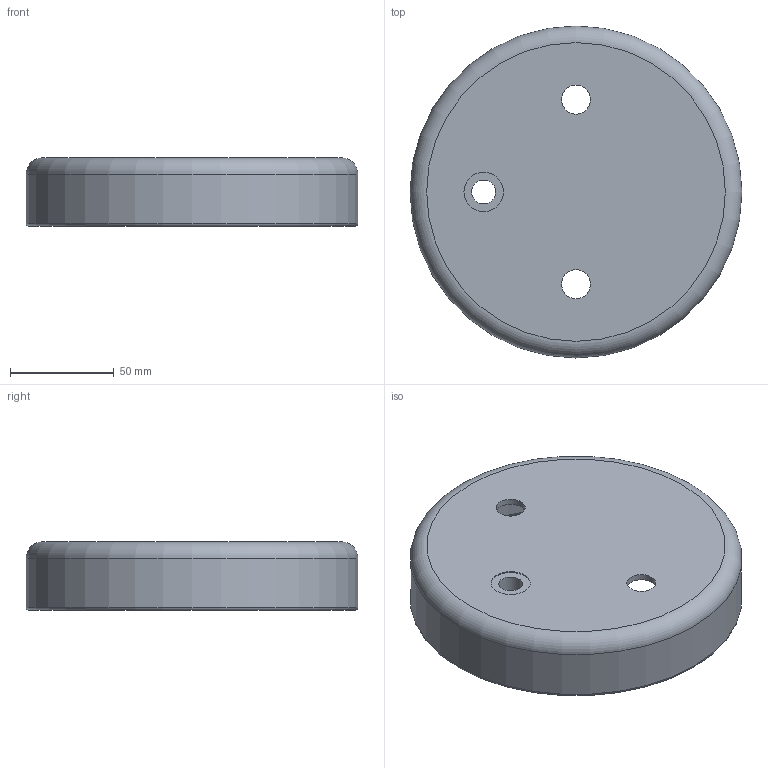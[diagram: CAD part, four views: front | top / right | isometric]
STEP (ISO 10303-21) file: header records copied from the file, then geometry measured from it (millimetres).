
FILE_DESCRIPTION(('Open CASCADE Model'),'2;1');
FILE_NAME('Open CASCADE Shape Model','2026-10-31T13:08:48',('Author'),( 'Open CASCADE'),'Open CASCADE STEP processor 7.9','Open CASCADE 7.9' ,'Unknown');
FILE_SCHEMA(('AUTOMOTIVE_DESIGN { 1 0 10303 214 1 1 1 1 }'));
Length unit declared in the file: millimetre
Products named in the file (1): Open CASCADE STEP translator 7.9 2
Bounding box: 160 x 160 x 33 mm (x, y, z)
Volume: 99585.9 mm3; surface area: 67937.1 mm2
Topology: 1 solids, 1 shells, 15 faces, 28 edges, 17 vertices
Faces by surface type: cylinder 7, torus 4, plane 4
Full cylindrical faces by diameter (mm): 11.5 x1, 14 x2, 17.5 x1, 19 x1, 154 x1, 160 x1
Entity records: 785 total; most frequent: CARTESIAN_POINT 155, DIRECTION 129, ORIENTED_EDGE 56, PCURVE 56, DEFINITIONAL_REPRESENTATION 56, LINE 49, VECTOR 49, AXIS2_PLACEMENT_3D 37
